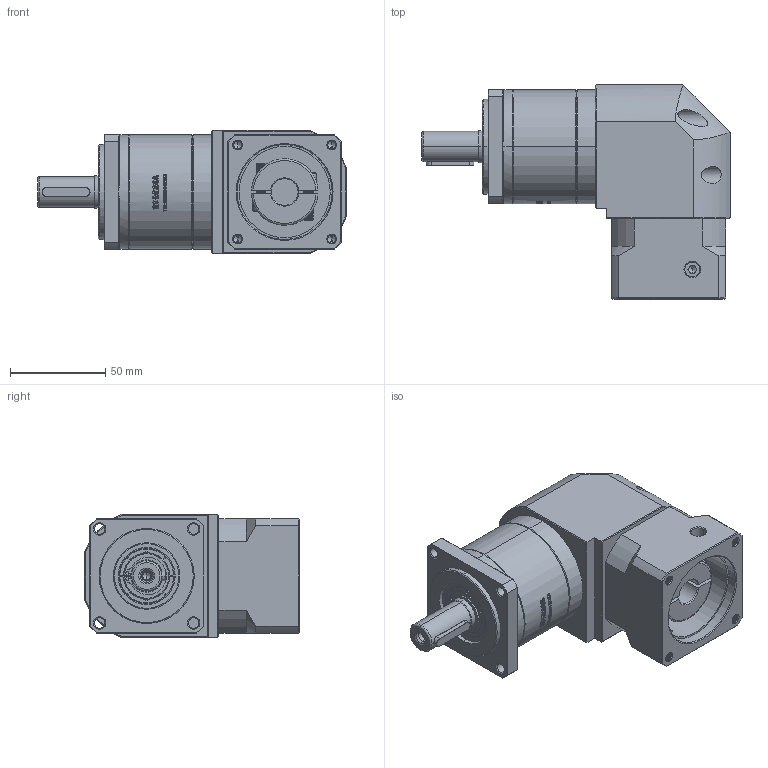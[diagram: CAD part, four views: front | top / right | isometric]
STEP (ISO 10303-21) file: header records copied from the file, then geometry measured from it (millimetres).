
FILE_DESCRIPTION (( 'STEP AP214' ), '1' );
FILE_NAME ('ZFR60-D16-L1-14-50-70-M5.STEP', '2022-04-20T09:04:25', ( '' ), ( 'Microsoft' ), 'SwSTEP 2.0', 'SolidWorks 2016', '' );
FILE_SCHEMA (( 'AUTOMOTIVE_DESIGN' ));
Length unit declared in the file: millimetre
Products named in the file (1): ZFR60-D16-L1-14-50-70-M5
Bounding box: 162.5 x 112.7 x 65 mm (x, y, z)
Volume: 537837 mm3; surface area: 78993.5 mm2
Topology: 5 solids, 6 shells, 2692 faces, 7317 edges, 4762 vertices
Faces by surface type: plane 1397, bspline 591, cylinder 402, cone 290, torus 12
Entity records: 149344 total; most frequent: CARTESIAN_POINT 57501, ORIENTED_EDGE 14590, DIRECTION 10444, EDGE_CURVE 7295, VERTEX_POINT 4762, LINE 4402, VECTOR 4402, AXIS2_PLACEMENT_3D 3021
